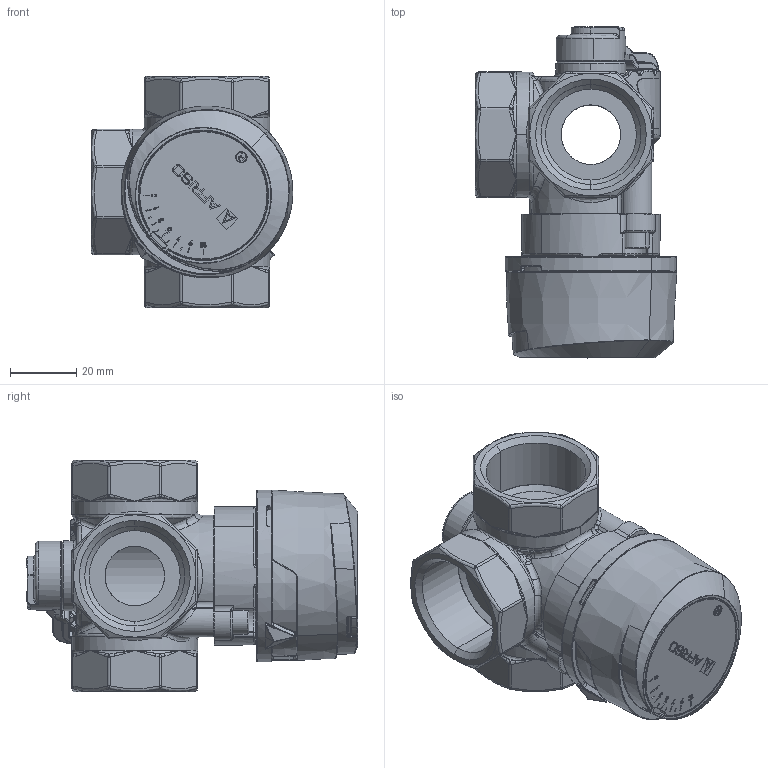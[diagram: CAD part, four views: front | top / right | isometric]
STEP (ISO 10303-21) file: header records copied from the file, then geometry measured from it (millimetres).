
FILE_DESCRIPTION (( 'STEP AP214' ), '1' );
FILE_NAME ('38420.STEP', '2023-10-05T10:11:10', ( '' ), ( '' ), 'SwSTEP 2.0', 'SolidWorks 2022', '' );
FILE_SCHEMA (( 'AUTOMOTIVE_DESIGN' ));
Length unit declared in the file: millimetre
Products named in the file (20): Bedruckung L_1; torx_socket_countersunk_flat_head_M3x14; Bedruckung R_1; 05 00 000275_Skalenscheibe Mischerbet.beids.bedr. L_R_1; 05 01 001117_Verstellhebel DN20_DN25_1; 05 00 000271_Sockel Mischerbet. _AFRISO-PL__1; 900084 0517_Zylinderschr. ISO 4762 - M5x16_1; Bedruckung_R_X_FCckseite_1; Schild DN20_DN25_1; 05 00 000276_Handrad Mischerbet. GE_X_C4NDERT_1; 3-Wege-Mischer ARV-Vario DN25_Baugruppe_1; Bedruckung_Vorderseite_1; 38420; 900084 0517_Zylinderschr. ISO 4762 - M5x16_1_2; 05 01 001120_Aufnahmesockel DN20_DN25_1; Baugruppe Mischerbet. _AFRISO-PL__Baugruppe_1; 05 01 001102_Geh_X_E4use 3-W ARV-Vario DN25_1
Assembly tree (19 placements, depth 6):
  38420
    3-Wege-Mischer ARV-Vario DN25_Baugruppe_1
      Baugruppe Mischerbet. _AFRISO-PL__Baugruppe_1
        05 00 000271_Sockel Mischerbet. _AFRISO-PL__1
        05 00 000276_Handrad Mischerbet. GE_X_C4NDERT_1
        05 00 000275_Skalenscheibe Mischerbet.beids.bedr. L_R_1
          05 00 000275_Skalenscheibe Mischerbet.beids.bedr. L_R_1
          Bedruckung_Vorderseite_1
            Bedruckung_Vorderseite_1
            Bedruckung L_1
          Bedruckung_R_X_FCckseite_1
            Bedruckung_R_X_FCckseite_1
            Bedruckung R_1
      900084 0517_Zylinderschr. ISO 4762 - M5x16_1
      900084 0517_Zylinderschr. ISO 4762 - M5x16_1_2
      Schild DN20_DN25_1
      05 01 001120_Aufnahmesockel DN20_DN25_1
      05 01 001117_Verstellhebel DN20_DN25_1
      05 01 001102_Geh_X_E4use 3-W ARV-Vario DN25_1
    torx_socket_countersunk_flat_head_M3x14
Bounding box: 60.99 x 100.4 x 70 mm (x, y, z)
Volume: 81382.4 mm3; surface area: 65317.3 mm2
Topology: 68 solids, 68 shells, 5632 faces, 15080 edges, 9311 vertices
Faces by surface type: plane 3061, bspline 1433, cylinder 888, cone 246, torus 4
Entity records: 364518 total; most frequent: CARTESIAN_POINT 200681, ORIENTED_EDGE 29582, DIRECTION 22632, EDGE_CURVE 14791, VERTEX_POINT 9311, LINE 9030, VECTOR 9030, AXIS2_PLACEMENT_3D 6801
